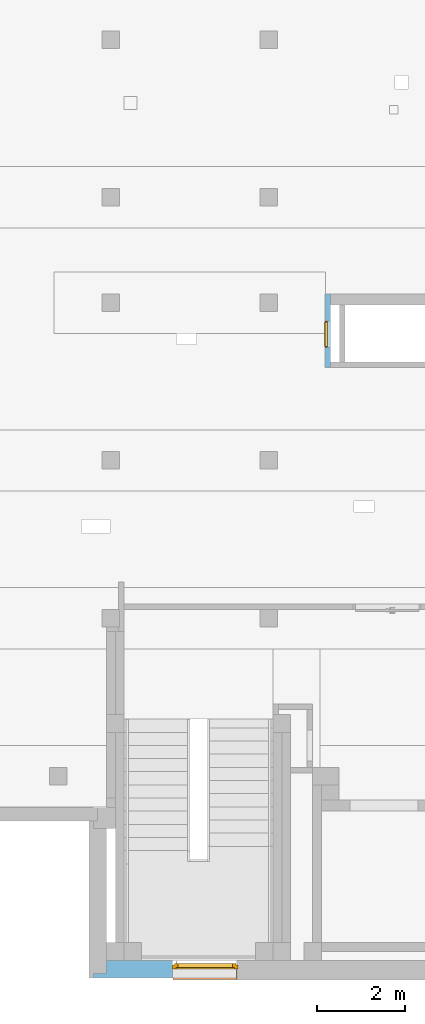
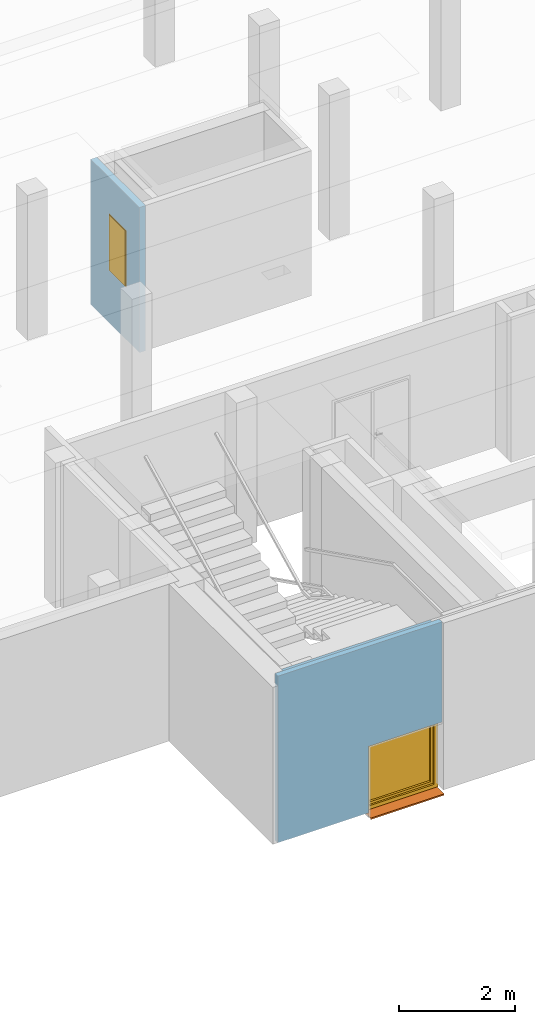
# One storey, part 16 of 27: 2 windows, 1 proxy, 2 openings, plus 2 elements that do not belong to this part.
"""IFC4 building model written with IfcOpenShell, lengths in metres."""

from ifc_helpers import new_model, entity, si_unit, converted_unit, derived_unit, frame, frame_2d, origin, origin_with_axes, place, context, subcontext, project, spatial, polyline, rectangle, outline, extrude, clip, bounded_halfspace, closed_shell, open_shell, faceted_brep, surface_model, source, transform, mapped, material, layer, layer_set, layer_usage, element, fill, save


model = new_model("IFC4")

# Units and contexts
model_context = context("Model", 3, precision=1e-05, world=origin())
body_context = subcontext(model_context, "Body", "Model", "MODEL_VIEW")
ifc_project = project(units=[si_unit("LENGTHUNIT", "METRE"), si_unit("AREAUNIT", "SQUARE_METRE"), si_unit("VOLUMEUNIT", "CUBIC_METRE"), si_unit("MASSUNIT", "GRAM", prefix="KILO"), converted_unit("PLANEANGLEUNIT", "DEGREE", entity("IfcPlaneAngleMeasure", 0.0174532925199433), si_unit("PLANEANGLEUNIT", "RADIAN"), dimensions=[0, 0, 0, 0, 0, 0, 0]), derived_unit("THERMALTRANSMITTANCEUNIT", [(si_unit("POWERUNIT", "WATT"), 1), (si_unit("THERMODYNAMICTEMPERATUREUNIT", "KELVIN"), -1), (si_unit("LENGTHUNIT", "METRE"), -2)]), derived_unit("VOLUMETRICFLOWRATEUNIT", [(si_unit("LENGTHUNIT", "METRE"), 3), (converted_unit("TIMEUNIT", "hour", entity("IfcTimeMeasure", 3600.0), si_unit("TIMEUNIT", "SECOND"), dimensions=[0, 0, 1, 0, 0, 0, 0]), -1), (si_unit("LENGTHUNIT", "METRE"), -1)])], contexts=[model_context])

# Site, building, storey
site_placement = place(None, origin())
site = spatial("IfcSite", under=ifc_project, at=site_placement, Name="3. ASŘ", CompositionType="ELEMENT")
building_placement = place(site_placement, origin())
building = spatial("IfcBuilding", under=site, at=building_placement, Name="Pavilon C", CompositionType="ELEMENT")
storey_placement = place(building_placement, frame((0.0, 0.0, 10.5)))
storey = spatial("IfcBuildingStorey", under=building, at=storey_placement, Name="Půdorys 4.NP", CompositionType="ELEMENT", Elevation=10.5)

# Wall, opening, window
ifc_material_1 = material(Name="ZDIVO Z CDm")
ifc_layer_1 = layer(ifc_material_1, 0.125)
ifc_layer_set_1 = layer_set([ifc_layer_1])
ifc_layer_usage_1 = layer_usage(ifc_layer_set_1, "AXIS2", "POSITIVE", 0.0)
wall_1_placement = place(storey_placement, frame((35.7625, 9.32499999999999, -0.1), z_axis=(0.0, 0.0, 1.0), x_axis=(0.0, 1.0, 0.0)))
wall_1 = element("IfcWall", 1, at=wall_1_placement, inside=storey, material=ifc_layer_usage_1, Name="ZDIVO Z CDm", context=body_context, shape_type="SweptSolid", body=[
    extrude(rectangle(XDim=1.67499999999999, YDim=0.125, at=frame_2d((0.837499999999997, 0.0625), x_axis=(1.0, 0.0))), origin_with_axes(), (0.0, 0.0, 1.0), 3.05),
])
opening_1_placement = place(wall_1_placement, frame((1.04999999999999, 0.125, 1.1), z_axis=(0.0, -1.0, 0.0), x_axis=(0.0, 0.0, 1.0)))
opening_1 = element("IfcOpeningElement", 2, at=opening_1_placement, cuts=wall_1, Name="Okenní otvor", ObjectType="Opening", context=body_context, shape_type="SweptSolid", body=[
    extrude(outline(polyline([(0.0, 0.6), (1.2, 0.6), (1.2, 0.0), (0.0, 0.0), (0.0, 0.6)])), origin_with_axes(), (0.0, 0.0, 1.0), 0.125),
])
shared_shape_1 = source(origin_with_axes(), body_context, "Body", "Brep", [
    faceted_brep([(0.0, 0.0600000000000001, 1.2), (0.0, 0.06, 4.91096680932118e-19), (0.02, 0.06, 4.91096680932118e-19), (0.02, 0.0600000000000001, 1.2), (0.0, 0.01, 6.61433067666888e-18), (0.0, 0.0100000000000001, 1.2), (0.02, 0.0100000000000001, 1.2), (0.02, 0.01, 6.61433067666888e-18)], [[[0, 1, 2, 3]], [[4, 5, 6, 7]], [[1, 0, 5, 4]], [[2, 1, 4, 7]], [[3, 2, 7, 6]], [[0, 3, 6, 5]]], orient=[[False], [False], [False], [False], [False], [False]]),
    faceted_brep([(0.58, 0.0600000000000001, 1.2), (0.58, 0.06, 4.91096680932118e-19), (0.6, 0.06, 4.91096680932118e-19), (0.6, 0.0600000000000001, 1.2), (0.58, 0.01, 6.61433067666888e-18), (0.58, 0.0100000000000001, 1.2), (0.6, 0.0100000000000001, 1.2), (0.6, 0.01, 6.61433067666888e-18)], [[[0, 1, 2, 3]], [[4, 5, 6, 7]], [[1, 0, 5, 4]], [[2, 1, 4, 7]], [[3, 2, 7, 6]], [[0, 3, 6, 5]]], orient=[[False], [False], [False], [False], [False], [False]]),
    faceted_brep([(0.02, 0.06, 0.02), (0.02, 0.06, 4.91096680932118e-19), (0.58, 0.06, 4.91096680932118e-19), (0.58, 0.06, 0.02), (0.02, 0.01, 6.61433067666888e-18), (0.02, 0.01, 0.02), (0.58, 0.01, 0.02), (0.58, 0.01, 6.61433067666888e-18)], [[[0, 1, 2, 3]], [[4, 5, 6, 7]], [[1, 0, 5, 4]], [[2, 1, 4, 7]], [[3, 2, 7, 6]], [[0, 3, 6, 5]]], orient=[[False], [False], [False], [False], [False], [False]]),
    faceted_brep([(0.02, 0.0600000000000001, 1.2), (0.02, 0.0600000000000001, 1.18), (0.58, 0.0600000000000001, 1.18), (0.58, 0.0600000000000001, 1.2), (0.02, 0.0100000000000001, 1.18), (0.02, 0.0100000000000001, 1.2), (0.58, 0.0100000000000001, 1.2), (0.58, 0.0100000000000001, 1.18)], [[[0, 1, 2, 3]], [[4, 5, 6, 7]], [[1, 0, 5, 4]], [[2, 1, 4, 7]], [[3, 2, 7, 6]], [[0, 3, 6, 5]]], orient=[[False], [False], [False], [False], [False], [False]]),
    faceted_brep([(0.02, 0.0100000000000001, 1.18), (0.02, 0.01, 0.02), (0.58, 0.01, 0.02), (0.58, 0.0100000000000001, 1.18), (0.02, 0.0, 0.02), (0.02, 1.4210854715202e-16, 1.18), (0.58, 1.4210854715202e-16, 1.18), (0.58, 0.0, 0.02)], [[[0, 1, 2, 3]], [[4, 5, 6, 7]], [[1, 0, 5, 4]], [[2, 1, 4, 7]], [[3, 2, 7, 6]], [[0, 3, 6, 5]]], orient=[[False], [False], [False], [False], [False], [False]]),
])
window_1_placement = place(opening_1_placement, frame((0.0, 0.600000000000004, -0.0100000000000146), z_axis=(1.0, 0.0, 0.0), x_axis=(0.0, -1.0, -1.22464679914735e-16)))
window_1 = element("IfcWindow", 3, at=window_1_placement, inside=storey, Name="O01", OverallHeight=1.2, OverallWidth=0.6, PartitioningType="USERDEFINED", PredefinedType="WINDOW", context=body_context, shape_type="MappedRepresentation", body=[
    mapped(shared_shape_1, transform((0.0, 0.0, 0.0), x_axis=(1.0, 0.0, 0.0), y_axis=(0.0, -1.0, 0.0), z_axis=(0.0, 0.0, 1.0), scale=1.0)),
])
fill(opening_1, window_1)

# Wall, opening, window, proxy
ifc_material_2 = material(Name="EPS")
ifc_layer_2 = layer(ifc_material_2, 0.1)
ifc_material_3 = material(Name="ZELEZOBETONOVÁ KCE")
ifc_layer_3 = layer(ifc_material_3, 0.3)
ifc_layer_set_2 = layer_set([ifc_layer_2, ifc_layer_3])
ifc_layer_usage_2 = layer_usage(ifc_layer_set_2, "AXIS2", "POSITIVE", -0.1)
wall_2_placement = place(storey_placement, frame((30.35, -4.6, -0.1)))
wall_2 = element("IfcWall", 4, at=wall_2_placement, inside=storey, material=ifc_layer_usage_2, Name="ZELEZOBETONOVÁ KCE", context=body_context, shape_type="Clipping", body=[
    clip(extrude(outline(polyline([(0.3, 0.4), (0.3, 0.1), (0.0, 0.1), (0.0, 0.0), (3.26, 0.0), (3.26, 0.4), (0.3, 0.4)])), origin_with_axes(), (0.0, 0.0, 1.0), 3.5), bounded_halfspace(frame((1.78, 0.25, 3.3), z_axis=(0.0, 0.0, -1.0), x_axis=(1.0, 0.0, 0.0)), True, origin_with_axes(), polyline([(0.3, 0.1), (3.26, 0.1), (3.26, 0.4), (0.3, 0.4), (0.3, 0.1)]))),
])
opening_2_placement = place(wall_2_placement, frame((1.8, 0.0, -0.1), z_axis=(0.0, 1.0, 0.0), x_axis=(0.0, 0.0, 1.0)))
opening_2 = element("IfcOpeningElement", 5, at=opening_2_placement, cuts=wall_2, Name="Okenní otvor", ObjectType="Opening", context=body_context, shape_type="SweptSolid", body=[
    extrude(outline(polyline([(0.0, 1.5), (1.5, 1.5), (1.5, 0.0), (0.0, 0.0), (0.0, 1.5)])), origin_with_axes(), (0.0, 0.0, 1.0), 0.1),
    extrude(outline(polyline([(0.0, 1.5), (1.5, 1.5), (1.5, 0.0), (0.0, 0.0), (0.0, 1.5)])), frame((0.0, 0.0, 0.1), z_axis=(0.0, 0.0, 1.0), x_axis=(1.0, 0.0, 0.0)), (0.0, 0.0, 1.0), 0.3),
])
shared_shape_2 = source(origin_with_axes(), body_context, "Body", "SurfaceModel", [
    surface_model("IfcShellBasedSurfaceModel", [(0.0, 0.182, 1.5), (0.0, 0.182, -5.63337527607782e-18), (0.08, 0.182, -5.63337527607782e-18), (0.08, 0.182, 1.5), (0.0, 0.0899999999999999, 5.63337527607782e-18), (0.0, 0.0900000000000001, 1.5), (0.08, 0.0900000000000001, 1.5), (0.08, 0.0899999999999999, 5.63337527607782e-18)], [closed_shell([[[0, 1, 2, 3]], [[4, 5, 6, 7]], [[1, 0, 5, 4]], [[2, 1, 4, 7]], [[3, 2, 7, 6]], [[0, 3, 6, 5]]], orient=[[False], [False], [False], [False], [False], [False]])]),
    surface_model("IfcShellBasedSurfaceModel", [(1.42, 0.182, 1.5), (1.42, 0.182, -5.63337527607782e-18), (1.5, 0.182, -5.63337527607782e-18), (1.5, 0.182, 1.5), (1.42, 0.0899999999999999, 5.63337527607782e-18), (1.42, 0.0900000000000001, 1.5), (1.5, 0.0900000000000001, 1.5), (1.5, 0.0899999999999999, 5.63337527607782e-18)], [closed_shell([[[0, 1, 2, 3]], [[4, 5, 6, 7]], [[1, 0, 5, 4]], [[2, 1, 4, 7]], [[3, 2, 7, 6]], [[0, 3, 6, 5]]], orient=[[False], [False], [False], [False], [False], [False]])]),
    surface_model("IfcShellBasedSurfaceModel", [(0.08, 0.182, 0.08), (0.08, 0.182, -5.63337527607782e-18), (1.42, 0.182, -5.63337527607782e-18), (1.42, 0.182, 0.08), (0.08, 0.0899999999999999, 5.63337527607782e-18), (0.08, 0.0899999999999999, 0.08), (1.42, 0.0899999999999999, 0.08), (1.42, 0.0899999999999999, 5.63337527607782e-18)], [closed_shell([[[0, 1, 2, 3]], [[4, 5, 6, 7]], [[1, 0, 5, 4]], [[2, 1, 4, 7]], [[3, 2, 7, 6]], [[0, 3, 6, 5]]], orient=[[False], [False], [False], [False], [False], [False]])]),
    surface_model("IfcShellBasedSurfaceModel", [(0.08, 0.182, 1.5), (0.08, 0.182, 1.42), (1.42, 0.182, 1.42), (1.42, 0.182, 1.5), (0.08, 0.0900000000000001, 1.42), (0.08, 0.0900000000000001, 1.5), (1.42, 0.0900000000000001, 1.5), (1.42, 0.0900000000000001, 1.42)], [closed_shell([[[0, 1, 2, 3]], [[4, 5, 6, 7]], [[1, 0, 5, 4]], [[2, 1, 4, 7]], [[3, 2, 7, 6]], [[0, 3, 6, 5]]], orient=[[False], [False], [False], [False], [False], [False]])]),
    surface_model("IfcShellBasedSurfaceModel", [(0.05, 0.145, 1.45), (0.05, 0.145, 0.05), (0.13, 0.145, 0.05), (0.13, 0.145, 1.45), (0.05, 0.0599999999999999, 0.05), (0.05, 0.0600000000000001, 1.45), (0.13, 0.0600000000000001, 1.45), (0.13, 0.0599999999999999, 0.05)], [closed_shell([[[0, 1, 2, 3]], [[4, 5, 6, 7]], [[1, 0, 5, 4]], [[2, 1, 4, 7]], [[3, 2, 7, 6]], [[0, 3, 6, 5]]], orient=[[False], [False], [False], [False], [False], [False]])]),
    surface_model("IfcShellBasedSurfaceModel", [(1.37, 0.145, 1.45), (1.37, 0.145, 0.05), (1.45, 0.145, 0.05), (1.45, 0.145, 1.45), (1.37, 0.0599999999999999, 0.05), (1.37, 0.0600000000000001, 1.45), (1.45, 0.0600000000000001, 1.45), (1.45, 0.0599999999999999, 0.05)], [closed_shell([[[0, 1, 2, 3]], [[4, 5, 6, 7]], [[1, 0, 5, 4]], [[2, 1, 4, 7]], [[3, 2, 7, 6]], [[0, 3, 6, 5]]], orient=[[False], [False], [False], [False], [False], [False]])]),
    surface_model("IfcShellBasedSurfaceModel", [(0.13, 0.145, 0.13), (0.13, 0.145, 0.05), (1.37, 0.145, 0.05), (1.37, 0.145, 0.13), (0.13, 0.0599999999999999, 0.05), (0.13, 0.0599999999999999, 0.13), (1.37, 0.0599999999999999, 0.13), (1.37, 0.0599999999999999, 0.05)], [closed_shell([[[0, 1, 2, 3]], [[4, 5, 6, 7]], [[1, 0, 5, 4]], [[2, 1, 4, 7]], [[3, 2, 7, 6]], [[0, 3, 6, 5]]], orient=[[False], [False], [False], [False], [False], [False]])]),
    surface_model("IfcShellBasedSurfaceModel", [(0.13, 0.145, 1.45), (0.13, 0.145, 1.37), (1.37, 0.145, 1.37), (1.37, 0.145, 1.45), (0.13, 0.0600000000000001, 1.37), (0.13, 0.0600000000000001, 1.45), (1.37, 0.0600000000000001, 1.45), (1.37, 0.0600000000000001, 1.37)], [closed_shell([[[0, 1, 2, 3]], [[4, 5, 6, 7]], [[1, 0, 5, 4]], [[2, 1, 4, 7]], [[3, 2, 7, 6]], [[0, 3, 6, 5]]], orient=[[False], [False], [False], [False], [False], [False]])]),
    surface_model("IfcShellBasedSurfaceModel", [(0.0775, 0.06, 0.77), (0.0775, 0.06, 0.73), (0.1025, 0.06, 0.73), (0.1025, 0.06, 0.77), (0.0775, 0.05, 0.73), (0.0775, 0.05, 0.77), (0.1025, 0.05, 0.77), (0.1025, 0.05, 0.73)], [closed_shell([[[0, 1, 2, 3]], [[4, 5, 6, 7]], [[1, 0, 5, 4]], [[2, 1, 4, 7]], [[3, 2, 7, 6]], [[0, 3, 6, 5]]], orient=[[False], [False], [False], [False], [False], [False]])]),
    surface_model("IfcShellBasedSurfaceModel", [(0.1, 0.05, 0.75), (0.0986602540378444, 0.05, 0.755), (0.095, 0.05, 0.758660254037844), (0.09, 0.05, 0.76), (0.085, 0.05, 0.758660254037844), (0.0813397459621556, 0.05, 0.755), (0.08, 0.05, 0.75), (0.0813397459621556, 0.05, 0.745), (0.085, 0.05, 0.741339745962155), (0.09, 0.05, 0.74), (0.095, 0.05, 0.741339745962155), (0.0986602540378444, 0.05, 0.745), (0.1, 0.01, 0.75), (0.0986602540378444, 0.00500000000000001, 0.755), (0.095, 0.00133974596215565, 0.758660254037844), (0.09, 2.8421709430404e-17, 0.76), (0.085, 0.00133974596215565, 0.758660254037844), (0.0813397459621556, 0.00500000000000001, 0.755), (0.08, 0.01, 0.75), (0.0813397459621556, 0.015, 0.745), (0.085, 0.0186602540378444, 0.741339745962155), (0.09, 0.02, 0.74), (0.095, 0.0186602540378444, 0.741339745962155), (0.0986602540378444, 0.015, 0.745), (0.1, 0.01, 0.635), (0.0986602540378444, 0.005, 0.635), (0.095, 0.00133974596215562, 0.635), (0.09, 0.0, 0.635), (0.085, 0.00133974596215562, 0.635), (0.0813397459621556, 0.005, 0.635), (0.08, 0.01, 0.635), (0.0813397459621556, 0.015, 0.635), (0.085, 0.0186602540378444, 0.635), (0.09, 0.02, 0.635), (0.095, 0.0186602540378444, 0.635), (0.0986602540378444, 0.015, 0.635)], [open_shell([[[0, 1, 2, 3, 4, 5, 6, 7, 8, 9, 10, 11]], [[0, 12, 13, 1]], [[1, 13, 14, 2]], [[2, 14, 15, 3]], [[3, 15, 16, 4]], [[4, 16, 17, 5]], [[5, 17, 18, 6]], [[6, 18, 19, 7]], [[7, 19, 20, 8]], [[8, 20, 21, 9]], [[9, 21, 22, 10]], [[10, 22, 23, 11]], [[11, 23, 12, 0]], [[12, 24, 25, 13]], [[13, 25, 26, 14]], [[14, 26, 27, 15]], [[15, 27, 28, 16]], [[16, 28, 29, 17]], [[17, 29, 30, 18]], [[18, 30, 31, 19]], [[19, 31, 32, 20]], [[20, 32, 33, 21]], [[21, 33, 34, 22]], [[22, 34, 35, 23]], [[23, 35, 24, 12]]], orient=[[False], [False], [False], [False], [False], [False], [False], [False], [False], [False], [False], [False], [False], [False], [False], [False], [False], [False], [False], [False], [False], [False], [False], [False], [False]])]),
    surface_model("IfcShellBasedSurfaceModel", [(0.13, 0.1025, 0.13), (1.37, 0.1025, 0.13), (1.37, 0.1025, 1.37), (0.13, 0.1025, 1.37)], [open_shell([[[0, 1, 2, 3]]], orient=[[False]])]),
])
window_2_placement = place(opening_2_placement, frame((0.0, 0.0, 0.382), z_axis=(1.0, 0.0, 0.0), x_axis=(0.0, 1.0, -1.22464679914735e-16)))
window_2 = element("IfcWindow", 6, at=window_2_placement, inside=storey, Name="O06", OverallHeight=1.5, OverallWidth=1.5, PartitioningType="USERDEFINED", PredefinedType="WINDOW", context=body_context, shape_type="MappedRepresentation", body=[
    mapped(shared_shape_2, transform((0.0, 0.0, 0.0), x_axis=(1.0, 0.0, 0.0), y_axis=(0.0, -1.0, 0.0), z_axis=(0.0, 0.0, 1.0), scale=1.0)),
])
fill(opening_2, window_2)
ifc_material_4 = material(Name="PLECH")
shared_shape_3 = source(origin_with_axes(), body_context, "Body", "Brep", [
    faceted_brep([(0.04, 0.0, 0.0), (0.04, 0.2, 0.0), (0.04, 0.2, 0.005), (0.04, 0.0, 0.005), (1.46, 0.0, 0.0), (1.46, 0.0, 0.005), (1.46, 0.2, 0.005), (1.46, 0.2, 0.0), (0.02, 0.0, 0.0), (0.02, -0.035, 0.0), (1.48, -0.035, 0.0), (1.48, 0.0, 0.0), (1.48, 0.0, 0.005), (1.48, -0.04, 0.005), (0.02, -0.04, 0.005), (0.02, 0.0, 0.005), (0.02, -0.04, -0.025), (0.02, -0.035, -0.025), (1.48, -0.035, -0.025), (1.48, -0.04, -0.025)], [[[0, 1, 2, 3]], [[4, 5, 6, 7]], [[1, 0, 8, 9, 10, 11, 4, 7]], [[2, 1, 7, 6]], [[3, 2, 6, 5, 12, 13, 14, 15]], [[8, 15, 14, 16, 17, 9]], [[11, 10, 18, 19, 13, 12]], [[15, 8, 0, 3]], [[5, 4, 11, 12]], [[16, 14, 13, 19]], [[17, 16, 19, 18]], [[9, 17, 18, 10]]], orient=[[False], [False], [False], [False], [False], [False], [False], [False], [False], [False], [False], [False]]),
    faceted_brep([(0.02, 0.0, 0.0), (0.02, 0.2, 0.0), (0.02, 0.2, 0.005), (0.02, 0.0, 0.005), (0.04, 0.0, 0.0), (0.04, 0.0, 0.005), (0.04, 0.2, 0.005), (0.04, 0.2, 0.0)], [[[0, 1, 2, 3]], [[4, 5, 6, 7]], [[1, 0, 4, 7]], [[2, 1, 7, 6]], [[3, 2, 6, 5]], [[0, 3, 5, 4]]], orient=[[False], [False], [False], [False], [False], [False]]),
    faceted_brep([(1.46, 0.0, 0.0), (1.46, 0.2, 0.0), (1.46, 0.2, 0.005), (1.46, 0.0, 0.005), (1.48, 0.0, 0.0), (1.48, 0.0, 0.005), (1.48, 0.2, 0.005), (1.48, 0.2, 0.0)], [[[0, 1, 2, 3]], [[4, 5, 6, 7]], [[1, 0, 4, 7]], [[2, 1, 7, 6]], [[3, 2, 6, 5]], [[0, 3, 5, 4]]], orient=[[False], [False], [False], [False], [False], [False]]),
])
proxy_placement = place(opening_2_placement, frame((0.0, 0.0, 0.0), z_axis=(1.0, 0.0, 0.0), x_axis=(0.0, 1.0, 0.0)))
proxy = element("IfcBuildingElementProxy", 7, at=proxy_placement, inside=storey, material=ifc_material_4, Name="Parapet vnější", context=body_context, shape_type="MappedRepresentation", body=[
    mapped(shared_shape_3, transform((0.0, 0.0, 0.0), x_axis=(1.0, 0.0, 0.0), y_axis=(0.0, 1.0, 0.0), z_axis=(0.0, 0.0, 1.0), scale=1.0)),
])
fill(opening_2, proxy)

save(model, "model.ifc")
